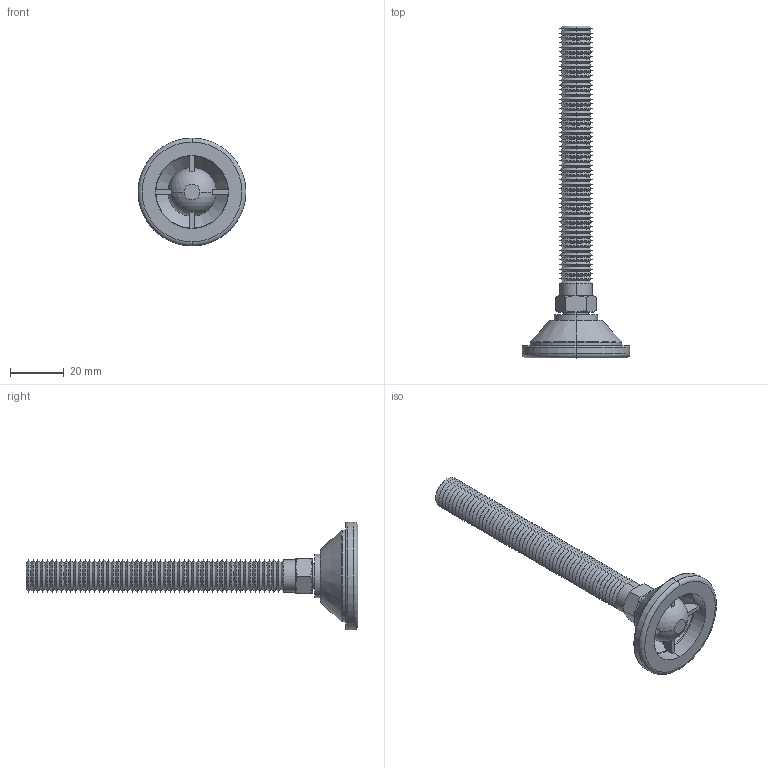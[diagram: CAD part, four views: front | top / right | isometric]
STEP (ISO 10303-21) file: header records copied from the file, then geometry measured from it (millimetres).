
FILE_DESCRIPTION (( 'STEP AP203' ), '1' );
FILE_NAME ('34741.W0124.step', '2016-09-22T07:41:35', ( 'User' ), ( '' ), 'SwSTEP 2.0', 'SolidWorks 2009', '' );
FILE_SCHEMA (( 'CONFIG_CONTROL_DESIGN' ));
Length unit declared in the file: millimetre
Products named in the file (3): 34741.W0124; Part1_34741.W0124; Part2_34741.W0124
Assembly tree (2 placements, depth 2):
  34741.W0124
    Part1_34741.W0124
    Part2_34741.W0124
Bounding box: 40 x 123 x 40 mm (x, y, z)
Volume: 19018.7 mm3; surface area: 11629.8 mm2
Topology: 2 solids, 2 shells, 296 faces, 628 edges, 338 vertices
Faces by surface type: cone 238, plane 26, cylinder 14, torus 12, sphere 6
Entity records: 8145 total; most frequent: DIRECTION 1502, CARTESIAN_POINT 1461, ORIENTED_EDGE 1238, AXIS2_PLACEMENT_3D 622, EDGE_CURVE 619, VERTEX_POINT 333, CIRCLE 321, EDGE_LOOP 302
